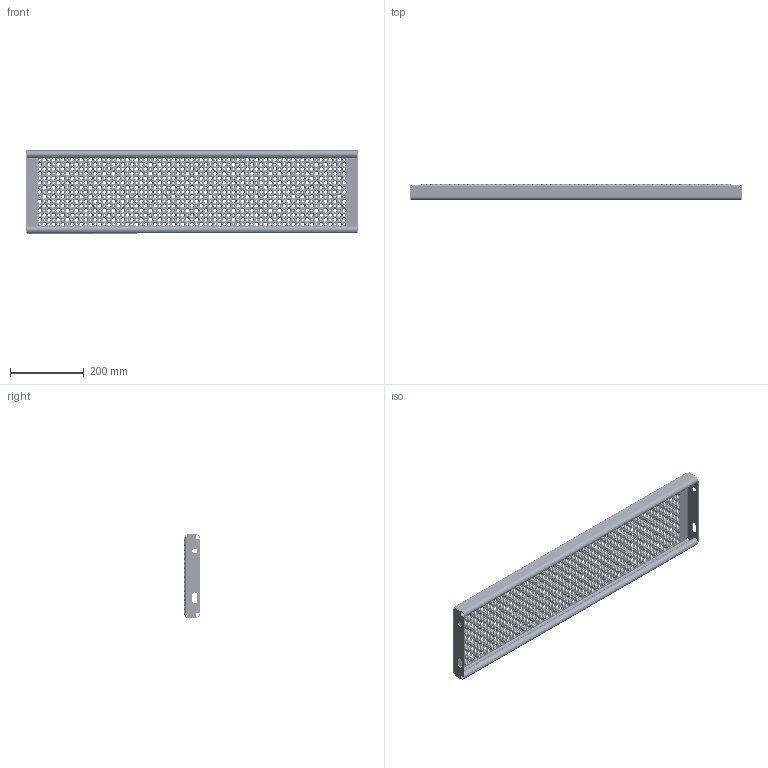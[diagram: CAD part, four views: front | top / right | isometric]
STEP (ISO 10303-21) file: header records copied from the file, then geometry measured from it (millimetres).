
FILE_DESCRIPTION (( 'STEP AP214' ), '1' );
FILE_NAME ('OPTIMO-Tread-Achil-O2-900x225x45x2-st240-F100210100.STEP', '2021-03-16T07:10:08', ( '' ), ( '' ), 'SwSTEP 2.0', 'SolidWorks 2021', '' );
FILE_SCHEMA (( 'AUTOMOTIVE_DESIGN' ));
Length unit declared in the file: millimetre
Products named in the file (1): OPTIMO-Tread-Achil-O2-900x225x45x2-st240-F100210100
Bounding box: 900 x 45 x 225 mm (x, y, z)
Volume: 719228.4 mm3; surface area: 780479.7 mm2
Topology: 1 solids, 1 shells, 11472 faces, 29814 edges, 18344 vertices
Faces by surface type: cone 6834, torus 4556, plane 38, cylinder 36, bspline 8
Entity records: 365116 total; most frequent: DIRECTION 75548, CARTESIAN_POINT 60223, ORIENTED_EDGE 59628, AXIS2_PLACEMENT_3D 34301, EDGE_CURVE 29814, CIRCLE 22836, VERTEX_POINT 18344, EDGE_LOOP 13758
